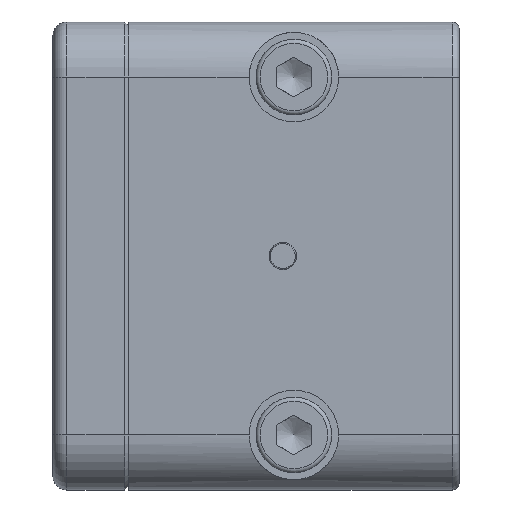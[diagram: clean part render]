
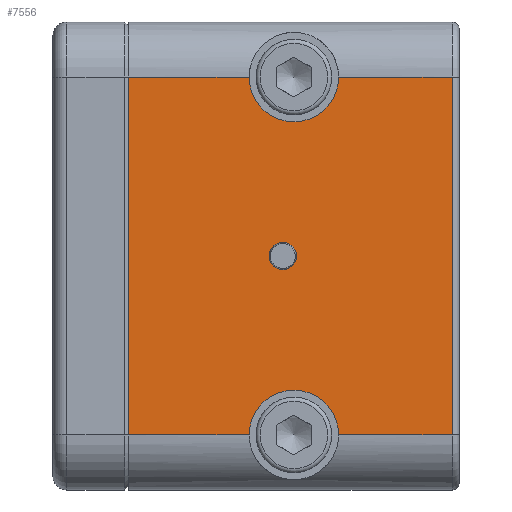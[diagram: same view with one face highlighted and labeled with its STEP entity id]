
A CAD part, left-side view. The second image highlights one B-rep face of the part: STEP entity #7556.
In plain terms, the highlighted planar face has unit normal (-1, 0, 0).
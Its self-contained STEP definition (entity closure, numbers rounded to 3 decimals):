
#220=FACE_BOUND('',#1259,.T.);
#394=PLANE('',#8345);
#787=FACE_OUTER_BOUND('',#1258,.T.);
#1258=EDGE_LOOP('',(#6483,#6484,#6485,#6486,#6487,#6488,#6489,#6490,#6491));
#1259=EDGE_LOOP('',(#6492));
#1647=CIRCLE('',#8316,1.);
#1655=CIRCLE('',#8332,3.25);
#1657=CIRCLE('',#8334,3.25);
#1660=CIRCLE('',#8341,3.25);
#2266=LINE('',#14182,#2784);
#2281=LINE('',#14304,#2799);
#2287=LINE('',#14381,#2805);
#2288=LINE('',#14382,#2806);
#2289=LINE('',#14384,#2807);
#2290=LINE('',#14385,#2808);
#2784=VECTOR('',#10225,10.);
#2799=VECTOR('',#10316,10.);
#2805=VECTOR('',#10354,10.);
#2806=VECTOR('',#10355,10.);
#2807=VECTOR('',#10358,10.);
#2808=VECTOR('',#10359,10.);
#3432=VERTEX_POINT('',#14179);
#3433=VERTEX_POINT('',#14181);
#3447=VERTEX_POINT('',#14282);
#3451=VERTEX_POINT('',#14298);
#3452=VERTEX_POINT('',#14302);
#3453=VERTEX_POINT('',#14310);
#3454=VERTEX_POINT('',#14311);
#3455=VERTEX_POINT('',#14334);
#3459=VERTEX_POINT('',#14349);
#3461=VERTEX_POINT('',#14363);
#4428=EDGE_CURVE('',#3432,#3433,#2266,.T.);
#4455=EDGE_CURVE('',#3447,#3447,#1647,.T.);
#4466=EDGE_CURVE('',#3452,#3451,#2281,.T.);
#4470=EDGE_CURVE('',#3455,#3453,#1655,.T.);
#4473=EDGE_CURVE('',#3454,#3455,#1657,.T.);
#4478=EDGE_CURVE('',#3461,#3459,#1660,.T.);
#4482=EDGE_CURVE('',#3433,#3453,#2287,.T.);
#4483=EDGE_CURVE('',#3454,#3452,#2288,.T.);
#4484=EDGE_CURVE('',#3451,#3459,#2289,.T.);
#4485=EDGE_CURVE('',#3461,#3432,#2290,.T.);
#6483=ORIENTED_EDGE('',*,*,#4466,.F.);
#6484=ORIENTED_EDGE('',*,*,#4483,.F.);
#6485=ORIENTED_EDGE('',*,*,#4473,.T.);
#6486=ORIENTED_EDGE('',*,*,#4470,.T.);
#6487=ORIENTED_EDGE('',*,*,#4482,.F.);
#6488=ORIENTED_EDGE('',*,*,#4428,.F.);
#6489=ORIENTED_EDGE('',*,*,#4485,.F.);
#6490=ORIENTED_EDGE('',*,*,#4478,.T.);
#6491=ORIENTED_EDGE('',*,*,#4484,.F.);
#6492=ORIENTED_EDGE('',*,*,#4455,.T.);
#7556=ADVANCED_FACE('',(#787,#220),#394,.T.);
#8316=AXIS2_PLACEMENT_3D('',#14283,#10288,#10289);
#8332=AXIS2_PLACEMENT_3D('',#14335,#10326,#10327);
#8334=AXIS2_PLACEMENT_3D('',#14339,#10331,#10332);
#8341=AXIS2_PLACEMENT_3D('',#14364,#10346,#10347);
#8345=AXIS2_PLACEMENT_3D('',#14386,#10360,#10361);
#10225=DIRECTION('',(0.,0.,1.));
#10288=DIRECTION('center_axis',(1.,0.,0.));
#10289=DIRECTION('ref_axis',(0.,0.,
1.));
#10316=DIRECTION('',(0.,0.,-1.));
#10326=DIRECTION('center_axis',(1.,0.,0.));
#10327=DIRECTION('ref_axis',(0.,0.,
1.));
#10331=DIRECTION('center_axis',(1.,0.,0.));
#10332=DIRECTION('ref_axis',(0.,0.,
1.));
#10346=DIRECTION('center_axis',(1.,0.,0.));
#10347=DIRECTION('ref_axis',(0.,0.,
1.));
#10354=DIRECTION('',(0.,-1.,0.));
#10355=DIRECTION('',(0.,-1.,0.));
#10358=DIRECTION('',(0.,1.,0.));
#10359=DIRECTION('',(0.,1.,0.));
#10360=DIRECTION('center_axis',(-1.,0.,0.));
#10361=DIRECTION('ref_axis',(0.,-1.,0.));
#14179=CARTESIAN_POINT('',(-68.,24.1,-13.));
#14181=CARTESIAN_POINT('',(-68.,24.1,13.));
#14182=CARTESIAN_POINT('',(-68.,24.1,-17.));
#14282=CARTESIAN_POINT('',(-68.,12.9,-1.));
#14283=CARTESIAN_POINT('Origin',(-68.,12.9,0.));
#14298=CARTESIAN_POINT('',(-68.,0.6,-13.));
#14302=CARTESIAN_POINT('',(-68.,0.6,13.));
#14304=CARTESIAN_POINT('',(-68.,0.6,-8.5));
#14310=CARTESIAN_POINT('',(-68.,15.35,13.));
#14311=CARTESIAN_POINT('',(-68.,8.85,13.));
#14334=CARTESIAN_POINT('',(-68.,12.1,9.75));
#14335=CARTESIAN_POINT('Origin',(-68.,12.1,13.));
#14339=CARTESIAN_POINT('Origin',(-68.,12.1,13.));
#14349=CARTESIAN_POINT('',(-68.,8.85,-13.));
#14363=CARTESIAN_POINT('',(-68.,15.35,-13.));
#14364=CARTESIAN_POINT('Origin',(-68.,12.1,-13.));
#14381=CARTESIAN_POINT('',(-68.,24.1,13.));
#14382=CARTESIAN_POINT('',(-68.,24.1,13.));
#14384=CARTESIAN_POINT('',(-68.,24.1,-13.));
#14385=CARTESIAN_POINT('',(-68.,24.1,-13.));
#14386=CARTESIAN_POINT('Origin',(-68.,24.1,-17.));
